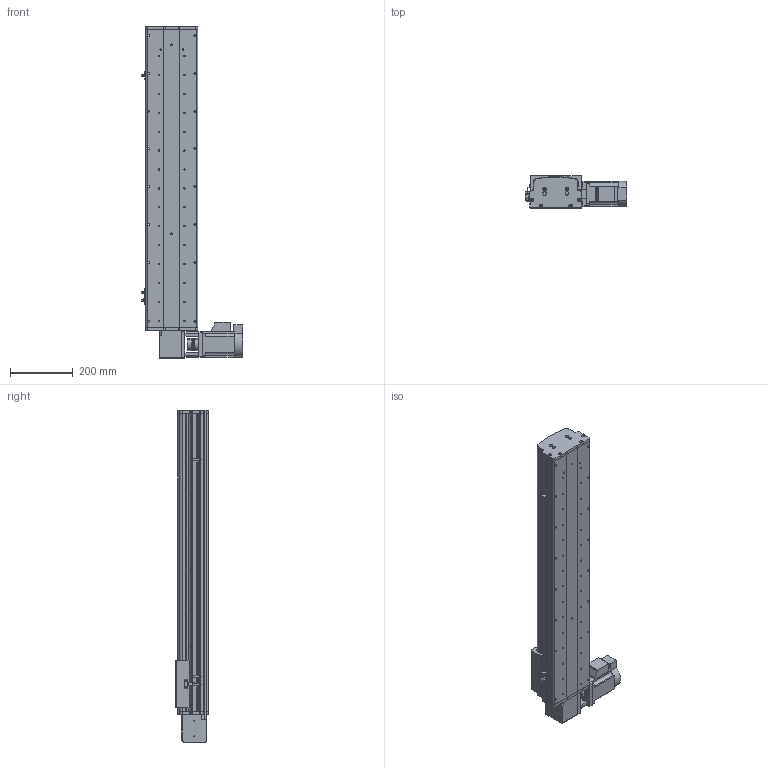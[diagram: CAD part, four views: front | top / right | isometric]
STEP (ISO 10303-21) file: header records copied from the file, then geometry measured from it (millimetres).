
FILE_DESCRIPTION (( 'STEP AP214' ), '1' );
FILE_NAME ('KSD165B-S700-MRT-CM.STEP', '2017-08-14T05:51:39', ( '微软用户' ), ( '微软中国' ), 'SwSTEP 2.0', 'SolidWorks 2014', '' );
FILE_SCHEMA (( 'AUTOMOTIVE_DESIGN' ));
Length unit declared in the file: millimetre
Products named in the file (16): U倰嫖萇假蚾璃; U倰嫖萇EEㄜSX672; 覜茼え68遵圉猾敕; KSD165模组-同步带-防撞垫2; KSD165模组同步带-防撞垫1; KSD165耀郪-ヶ傷啣1-肮祭湍; KSD165模组-后端板1-同步带; 130宽马达安装板1-带电机座750W（1）; KSD165模组-同步带滑动座-最新版; KSD165B-S700-MRT-CM; KSD165模组-同步带防尘盖1-700行程-最新版; KSD165模组同步带底板-700行程-最新; 拸秶雄ん750W侜督萇儂; 165宽安装板同步带带电机座750W; 165宽马达安装板同步带右; C39ㄜ1419WP
Assembly tree (19 placements, depth 2):
  KSD165B-S700-MRT-CM
    KSD165模组-同步带滑动座-最新版
    130宽马达安装板1-带电机座750W（1）
    KSD165模组-后端板1-同步带
    KSD165耀郪-ヶ傷啣1-肮祭湍
    KSD165模组同步带-防撞垫1
    KSD165模组-同步带-防撞垫2
    覜茼え68遵圉猾敕
    U倰嫖萇EEㄜSX672  x3
    U倰嫖萇假蚾璃  x3
    C39ㄜ1419WP
    165宽马达安装板同步带右
    165宽安装板同步带带电机座750W
    拸秶雄ん750W侜督萇儂
    KSD165模组同步带底板-700行程-最新
    KSD165模组-同步带防尘盖1-700行程-最新版
Bounding box: 321.2 x 104 x 1054 mm (x, y, z)
Volume: 6534493.3 mm3; surface area: 1461004.2 mm2
Topology: 20 solids, 20 shells, 1464 faces, 4068 edges, 2633 vertices
Faces by surface type: cylinder 795, plane 575, cone 94
Entity records: 46335 total; most frequent: CARTESIAN_POINT 9701, DIRECTION 7214, ORIENTED_EDGE 6788, EDGE_CURVE 3394, AXIS2_PLACEMENT_3D 2738, VERTEX_POINT 2225, VECTOR 1738, LINE 1738
